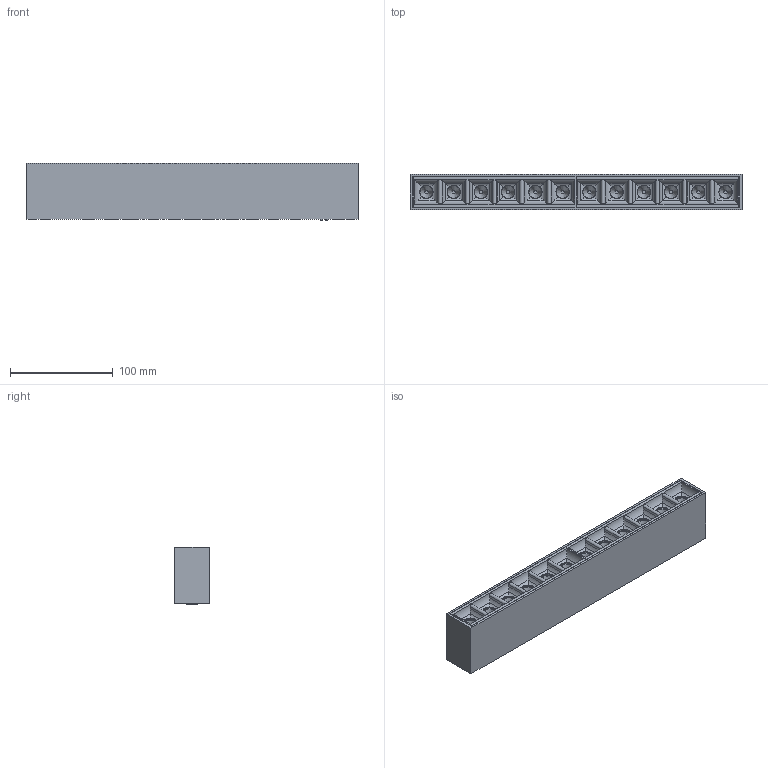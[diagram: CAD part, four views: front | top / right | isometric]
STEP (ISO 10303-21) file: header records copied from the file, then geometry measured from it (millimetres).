
FILE_DESCRIPTION(/* description */ (''),/* implementation_level */ '2;1');
FILE_NAME(/* name */ 'C:\Users\FrancoSartori\Documents\FARO\01_En Proceso\0000_2022\000_PRO\00_NESO\01_RFA_3D_Trabajo\POINT12.stp',/* time_stamp */ '2022-07-19T14:20:18+02:00',/* author */ ('FrancoSartori'),/* organization */ (''),/* preprocessor_version */ 'ST-DEVELOPER v19',/* originating_system */ 'AutoCAD Mechanical',/* authorisation */ '');
FILE_SCHEMA (('AUTOMOTIVE_DESIGN { 1 0 10303 214 3 1 1 }'));
Length unit declared in the file: millimetre
Products named in the file (2): Product; POINT12_ - LAMP-517067-Export
Assembly tree (1 placements, depth 2):
  Product
    POINT12_ - LAMP-517067-Export
Bounding box: 323 x 34 x 55.5 mm (x, y, z)
Volume: 6027.1 mm3; surface area: 120077 mm2
Topology: 29 solids, 32 shells, 703 faces, 1790 edges, 1076 vertices
Faces by surface type: cylinder 352, plane 303, cone 48
Entity records: 23172 total; most frequent: CARTESIAN_POINT 6612, DIRECTION 3362, ORIENTED_EDGE 3340, EDGE_CURVE 1790, AXIS2_PLACEMENT_3D 1198, VERTEX_POINT 1076, LINE 966, VECTOR 966
